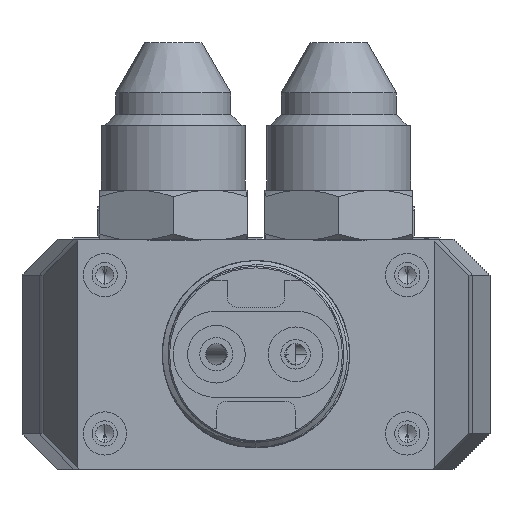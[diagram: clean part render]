
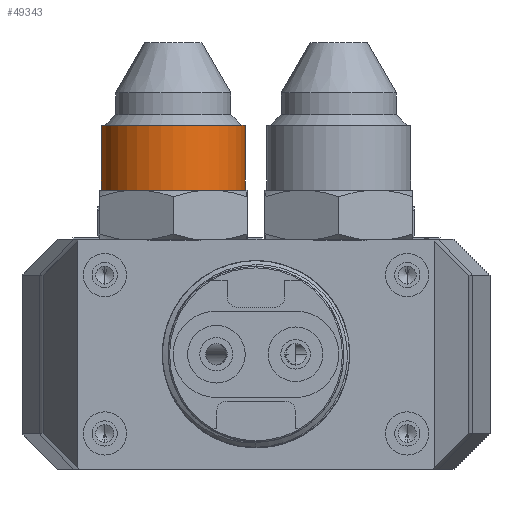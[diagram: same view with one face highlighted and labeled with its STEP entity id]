
A CAD part, front view. The second image highlights one B-rep face of the part: STEP entity #49343.
In plain terms, the highlighted cylindrical face has radius 10 mm (diameter 20 mm), a partial arc.
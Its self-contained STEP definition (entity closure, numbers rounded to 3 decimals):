
#1083 = CARTESIAN_POINT ( 'NONE',  ( -100.366, -146.433, 1052.575 ) ) ;
#1098 = DIRECTION ( 'NONE',  ( 0., 0., 1. ) ) ;
#1506 = EDGE_CURVE ( 'NONE', #52752, #29171, #28861, .T. ) ;
#3799 = AXIS2_PLACEMENT_3D ( 'NONE', #54615, #50018, #27084 ) ;
#3884 = VERTEX_POINT ( 'NONE', #14098 ) ;
#5359 = CARTESIAN_POINT ( 'NONE',  ( -90.366, -146.433, 1052.575 ) ) ;
#5760 = CIRCLE ( 'NONE', #3799, 10. ) ;
#5969 = FACE_OUTER_BOUND ( 'NONE', #53530, .T. ) ;
#6527 = CARTESIAN_POINT ( 'NONE',  ( -90.366, -146.433, 1021.303 ) ) ;
#7973 = DIRECTION ( 'NONE',  ( 0., 0., 1. ) ) ;
#8856 = EDGE_CURVE ( 'NONE', #3884, #52752, #5760, .T. ) ;
#11407 = EDGE_CURVE ( 'NONE', #3884, #28682, #13453, .T. ) ;
#11840 = DIRECTION ( 'NONE',  ( 0., 0., -1. ) ) ;
#13453 = LINE ( 'NONE', #40338, #43956 ) ;
#14098 = CARTESIAN_POINT ( 'NONE',  ( -110.366, -146.433, 1021.303 ) ) ;
#15749 = DIRECTION ( 'NONE',  ( 0., 0., 1. ) ) ;
#20902 = CARTESIAN_POINT ( 'NONE',  ( -90.366, -146.433, 1030.303 ) ) ;
#24664 = CARTESIAN_POINT ( 'NONE',  ( -110.366, -146.433, 1030.303 ) ) ;
#25268 = AXIS2_PLACEMENT_3D ( 'NONE', #58863, #11840, #44468 ) ;
#27084 = DIRECTION ( 'NONE',  ( 1., 0., 0. ) ) ;
#28682 = VERTEX_POINT ( 'NONE', #24664 ) ;
#28861 = LINE ( 'NONE', #5359, #49073 ) ;
#29171 = VERTEX_POINT ( 'NONE', #20902 ) ;
#30870 = AXIS2_PLACEMENT_3D ( 'NONE', #1083, #15749, #33717 ) ;
#33717 = DIRECTION ( 'NONE',  ( 1., 0., 0. ) ) ;
#37929 = CIRCLE ( 'NONE', #25268, 10. ) ;
#40338 = CARTESIAN_POINT ( 'NONE',  ( -110.366, -146.433, 1052.575 ) ) ;
#42441 = ORIENTED_EDGE ( 'NONE', *, *, #11407, .F. ) ;
#43494 = CYLINDRICAL_SURFACE ( 'NONE', #30870, 10. ) ;
#43956 = VECTOR ( 'NONE', #7973, 1000. ) ;
#44468 = DIRECTION ( 'NONE',  ( 1., 0., 0. ) ) ;
#49073 = VECTOR ( 'NONE', #1098, 1000. ) ;
#49343 = ADVANCED_FACE ( 'NONE', ( #5969 ), #43494, .T. ) ;
#50018 = DIRECTION ( 'NONE',  ( 0., 0., 1. ) ) ;
#52752 = VERTEX_POINT ( 'NONE', #6527 ) ;
#52966 = ORIENTED_EDGE ( 'NONE', *, *, #1506, .T. ) ;
#53530 = EDGE_LOOP ( 'NONE', ( #42441, #59321, #52966, #53945 ) ) ;
#53945 = ORIENTED_EDGE ( 'NONE', *, *, #54097, .T. ) ;
#54097 = EDGE_CURVE ( 'NONE', #29171, #28682, #37929, .T. ) ;
#54615 = CARTESIAN_POINT ( 'NONE',  ( -100.366, -146.433, 1021.303 ) ) ;
#58863 = CARTESIAN_POINT ( 'NONE',  ( -100.366, -146.433, 1030.303 ) ) ;
#59321 = ORIENTED_EDGE ( 'NONE', *, *, #8856, .T. ) ;
